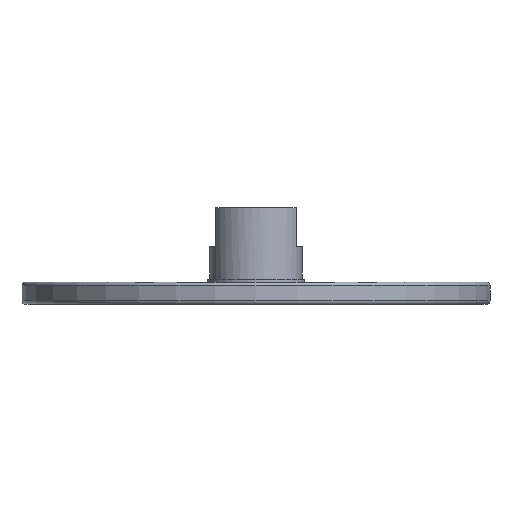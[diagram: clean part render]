
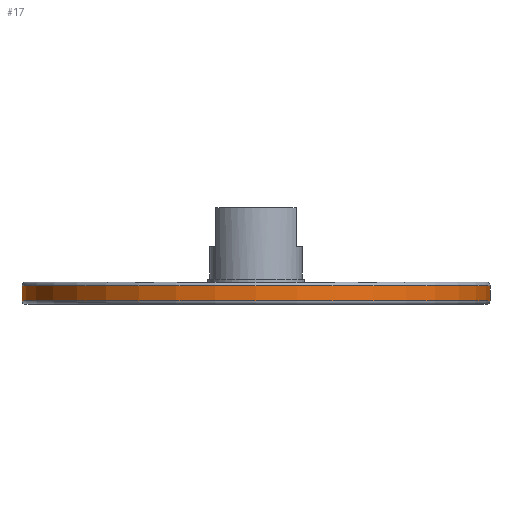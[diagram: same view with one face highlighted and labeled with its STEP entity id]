
A CAD part, front view. The second image highlights one B-rep face of the part: STEP entity #17.
In plain terms, the highlighted cylindrical face has radius 63 mm (diameter 126 mm), a full revolution.
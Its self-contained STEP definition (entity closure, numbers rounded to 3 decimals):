
#17 = ADVANCED_FACE('',(#18),#32,.T.);
#18 = FACE_BOUND('',#19,.T.);
#19 = EDGE_LOOP('',(#20,#50,#77,#78));
#20 = ORIENTED_EDGE('',*,*,#21,.T.);
#21 = EDGE_CURVE('',#22,#24,#26,.T.);
#22 = VERTEX_POINT('',#23);
#23 = CARTESIAN_POINT('',(63.,0.,5.));
#24 = VERTEX_POINT('',#25);
#25 = CARTESIAN_POINT('',(63.,0.,1.));
#26 = SEAM_CURVE('',#27,(#31,#43),.PCURVE_S1.);
#27 = LINE('',#28,#29);
#28 = CARTESIAN_POINT('',(63.,0.,6.));
#29 = VECTOR('',#30,1.);
#30 = DIRECTION('',(0.,0.,-1.));
#31 = PCURVE('',#32,#37);
#32 = CYLINDRICAL_SURFACE('',#33,63.);
#33 = AXIS2_PLACEMENT_3D('',#34,#35,#36);
#34 = CARTESIAN_POINT('',(0.,0.,6.));
#35 = DIRECTION('',(0.,0.,-1.));
#36 = DIRECTION('',(1.,0.,0.));
#37 = DEFINITIONAL_REPRESENTATION('',(#38),#42);
#38 = LINE('',#39,#40);
#39 = CARTESIAN_POINT('',(6.283,-0.));
#40 = VECTOR('',#41,1.);
#41 = DIRECTION('',(0.,1.));
#42 = ( GEOMETRIC_REPRESENTATION_CONTEXT(2) 
PARAMETRIC_REPRESENTATION_CONTEXT() REPRESENTATION_CONTEXT('2D SPACE',''
  ) );
#43 = PCURVE('',#32,#44);
#44 = DEFINITIONAL_REPRESENTATION('',(#45),#49);
#45 = LINE('',#46,#47);
#46 = CARTESIAN_POINT('',(0.,-0.));
#47 = VECTOR('',#48,1.);
#48 = DIRECTION('',(0.,1.));
#49 = ( GEOMETRIC_REPRESENTATION_CONTEXT(2) 
PARAMETRIC_REPRESENTATION_CONTEXT() REPRESENTATION_CONTEXT('2D SPACE',''
  ) );
#50 = ORIENTED_EDGE('',*,*,#51,.F.);
#51 = EDGE_CURVE('',#24,#24,#52,.T.);
#52 = SURFACE_CURVE('',#53,(#58,#65),.PCURVE_S1.);
#53 = CIRCLE('',#54,63.);
#54 = AXIS2_PLACEMENT_3D('',#55,#56,#57);
#55 = CARTESIAN_POINT('',(0.,0.,1.));
#56 = DIRECTION('',(0.,0.,-1.));
#57 = DIRECTION('',(1.,0.,0.));
#58 = PCURVE('',#32,#59);
#59 = DEFINITIONAL_REPRESENTATION('',(#60),#64);
#60 = LINE('',#61,#62);
#61 = CARTESIAN_POINT('',(0.,5.));
#62 = VECTOR('',#63,1.);
#63 = DIRECTION('',(1.,0.));
#64 = ( GEOMETRIC_REPRESENTATION_CONTEXT(2) 
PARAMETRIC_REPRESENTATION_CONTEXT() REPRESENTATION_CONTEXT('2D SPACE',''
  ) );
#65 = PCURVE('',#66,#71);
#66 = TOROIDAL_SURFACE('',#67,62.,1.);
#67 = AXIS2_PLACEMENT_3D('',#68,#69,#70);
#68 = CARTESIAN_POINT('',(0.,0.,1.));
#69 = DIRECTION('',(0.,0.,-1.));
#70 = DIRECTION('',(1.,0.,0.));
#71 = DEFINITIONAL_REPRESENTATION('',(#72),#76);
#72 = LINE('',#73,#74);
#73 = CARTESIAN_POINT('',(0.,0.));
#74 = VECTOR('',#75,1.);
#75 = DIRECTION('',(1.,0.));
#76 = ( GEOMETRIC_REPRESENTATION_CONTEXT(2) 
PARAMETRIC_REPRESENTATION_CONTEXT() REPRESENTATION_CONTEXT('2D SPACE',''
  ) );
#77 = ORIENTED_EDGE('',*,*,#21,.F.);
#78 = ORIENTED_EDGE('',*,*,#79,.T.);
#79 = EDGE_CURVE('',#22,#22,#80,.T.);
#80 = SURFACE_CURVE('',#81,(#86,#93),.PCURVE_S1.);
#81 = CIRCLE('',#82,63.);
#82 = AXIS2_PLACEMENT_3D('',#83,#84,#85);
#83 = CARTESIAN_POINT('',(0.,0.,5.));
#84 = DIRECTION('',(0.,0.,-1.));
#85 = DIRECTION('',(1.,0.,0.));
#86 = PCURVE('',#32,#87);
#87 = DEFINITIONAL_REPRESENTATION('',(#88),#92);
#88 = LINE('',#89,#90);
#89 = CARTESIAN_POINT('',(0.,1.));
#90 = VECTOR('',#91,1.);
#91 = DIRECTION('',(1.,0.));
#92 = ( GEOMETRIC_REPRESENTATION_CONTEXT(2) 
PARAMETRIC_REPRESENTATION_CONTEXT() REPRESENTATION_CONTEXT('2D SPACE',''
  ) );
#93 = PCURVE('',#94,#99);
#94 = TOROIDAL_SURFACE('',#95,62.,1.);
#95 = AXIS2_PLACEMENT_3D('',#96,#97,#98);
#96 = CARTESIAN_POINT('',(0.,0.,5.));
#97 = DIRECTION('',(-0.,0.,1.));
#98 = DIRECTION('',(1.,0.,0.));
#99 = DEFINITIONAL_REPRESENTATION('',(#100),#104);
#100 = LINE('',#101,#102);
#101 = CARTESIAN_POINT('',(-0.,0.));
#102 = VECTOR('',#103,1.);
#103 = DIRECTION('',(-1.,0.));
#104 = ( GEOMETRIC_REPRESENTATION_CONTEXT(2) 
PARAMETRIC_REPRESENTATION_CONTEXT() REPRESENTATION_CONTEXT('2D SPACE',''
  ) );
